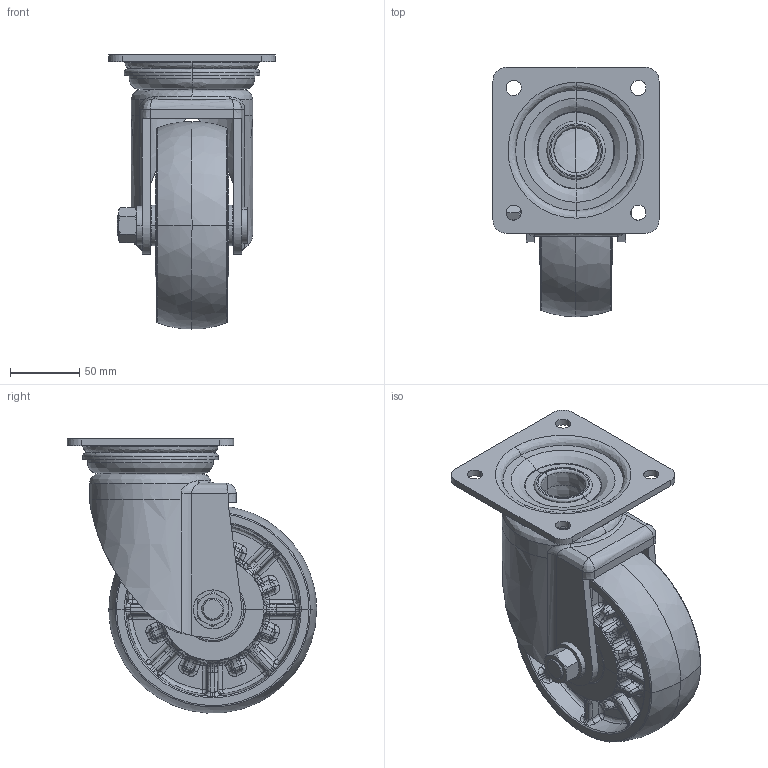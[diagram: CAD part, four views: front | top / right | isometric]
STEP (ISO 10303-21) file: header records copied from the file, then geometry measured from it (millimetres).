
FILE_DESCRIPTION (( 'STEP AP214' ), '1' );
FILE_NAME ('HE-150WJ-ALL.STEP', '2021-05-28T02:55:30', ( '' ), ( '' ), 'SwSTEP 2.0', 'SolidWorks 2010', '' );
FILE_SCHEMA (( 'AUTOMOTIVE_DESIGN' ));
Length unit declared in the file: millimetre
Products named in the file (10): HE-150WJ-10; HE-150WJ-12; HE-150WJ-13; HE-150WJ-14; HE-150WJ-15; HE-150WJ-16; HE-150WJ-17; HE-150WJ-18; HE-150WJ-11; HE-150WJ-ALL
Assembly tree (9 placements, depth 2):
  HE-150WJ-ALL
    HE-150WJ-13
    HE-150WJ-10
    HE-150WJ-12
    HE-150WJ-11
    HE-150WJ-18
    HE-150WJ-17
    HE-150WJ-16
    HE-150WJ-15
    HE-150WJ-14
Bounding box: 120 x 179.99 x 197.86 mm (x, y, z)
Volume: 970430.8 mm3; surface area: 234076.9 mm2
Topology: 11 solids, 11 shells, 1426 faces, 3463 edges, 1932 vertices
Faces by surface type: bspline 1367, plane 59
Entity records: 151194 total; most frequent: CARTESIAN_POINT 124223, ORIENTED_EDGE 6702, EDGE_CURVE 3351, B_SPLINE_CURVE_WITH_KNOTS 3193, VERTEX_POINT 1932, EDGE_LOOP 1445, FACE_OUTER_BOUND 1426, ADVANCED_FACE 1426
